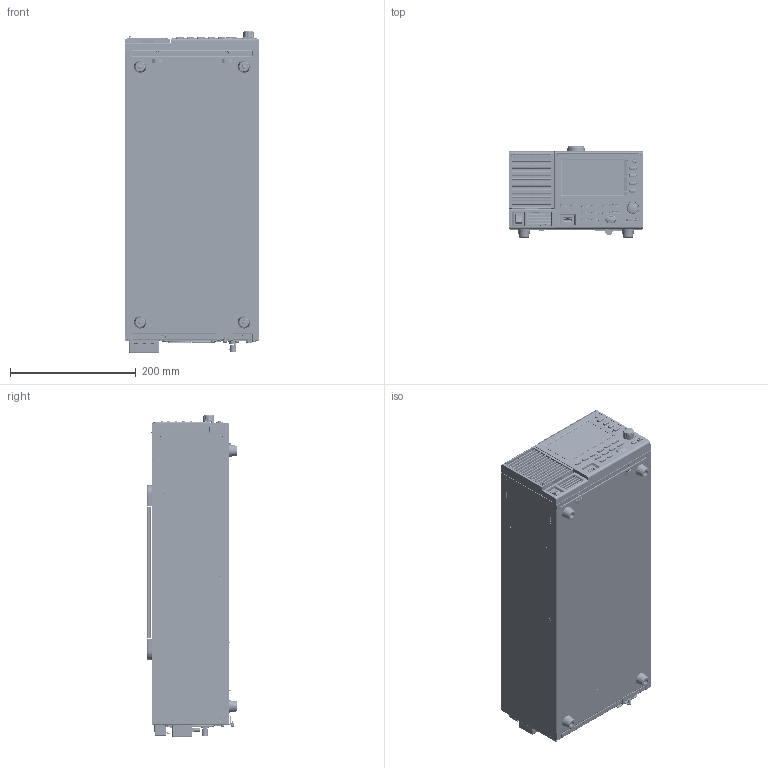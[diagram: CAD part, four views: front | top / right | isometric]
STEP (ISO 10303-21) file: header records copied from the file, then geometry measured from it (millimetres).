
FILE_DESCRIPTION((''),'2;1');
FILE_NAME('APS-4000_ASM','2020-07-02T17:37:15',('benny_chen'),(''),'CREO PARAMETRIC BY PTC INC, 2019080','CREO PARAMETRIC BY PTC INC, 2019080','');
FILE_SCHEMA(('CONFIG_CONTROL_DESIGN'));
Products named in the file (178): APS-4000_SKEL0001; ASR_SKEL0001; APS-4K_FRONT_ASM-B_SKEL; LCD-PH-07008-002; APS-4K-LCD-HOLD-B; 62SR-2K0HP101_ASM; 57RG-20B05601; 57RG-20B05501; APS-4K-LCD-B_ASM; APS-4K-PCB-KEY-1B; BL112_40RL; BL112_50S; CTT-1137; LED16X08S-SMD-SINGLECOLOR; APS-4K-ENCODE-SW-DC-12KV30D03F; APS-4K-PCB-KEY-1B_ASM; 63FP-AG1145A1; INSERT-CU; 63FP-AG1145A1_ASM; 63FP-AG114601; 63FP-AG114601_ASM; 57RB-40G14601_57RB-40G15101; APS-4K_MODEL_NP-B; PFR-100-SW-POWER; PMS-3X6; 51SR-21000201; 4702-06300301; 5005-180G020; APS-4K_F_ASM-B_ASM; APS-4000-HP-FP-B; BSO-M3-8; 62SR-2K0FP101_ASM; 62FG-120PP10; APS-4K-HP-HOLDER-USB-B; 62SR-2K0HP401_ASM; APS-4K-USB-UB-01745-B; FRP10; PMS-3X8; APS-4K-HP-HOLDER-USB-ASM-B_ASM; PMS-W-3X6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
Assembly tree (478 placements, depth 6):
  APS-4000_ASM
    APS-4000_SKEL0001
    ASR_SKEL0001
    APS-4K_FRONT_ASM-B_ASM
      APS-4K_FRONT_ASM-B_SKEL
      APS-4K_F_ASM-B_ASM
        APS-4K-LCD-B_ASM
          LCD-PH-07008-002
          62SR-2K0HP101_ASM
            APS-4K-LCD-HOLD-B
          57RG-20B05601  x2
          57RG-20B05501  x2
        APS-4K-PCB-KEY-1B_ASM
          APS-4K-PCB-KEY-1B
          BL112_40RL
          BL112_50S
          CTT-1137  x20
          LED16X08S-SMD-SINGLECOLOR  x4
          APS-4K-ENCODE-SW-DC-12KV30D03F
        63FP-AG1145A1_ASM
          63FP-AG1145A1
          INSERT-CU  x7
        63FP-AG114601_ASM
          63FP-AG114601
        57RB-40G14601_57RB-40G15101
        APS-4K_MODEL_NP-B
        PFR-100-SW-POWER
        PMS-3X6  x5
        51SR-21000201
        4702-06300301  x4
        5005-180G020
      APS-4K_FP_ASM-B_ASM
        62SR-2K0FP101_ASM
          APS-4000-HP-FP-B
          BSO-M3-8  x2
        62FG-120PP10  x2
        APS-4K-HP-HOLDER-USB-ASM-B_ASM
          62SR-2K0HP401_ASM
            APS-4K-HP-HOLDER-USB-B
          APS-4K-USB-UB-01745-B
          FRP10
          PMS-3X8  x2
        PMS-W-3X6  x2
      APS-4K-SPONGE-B_ASM
        57RG-20B06001
      PMS-W-3X6  x7
      594A-03012BS1  x3
      57IL-28F23801
      5320-00403021-SR-3AQ_ASM  x2
        SR-3AQ-Z
        SR-3AQ-A
    62SR-2K0LO101_ASM
      APS-4K-HP-LO
      SO-M3-5  x14
      S-M3-1_NUT  x4
    57IL-28F22701
    APS-4K-RP-ASM_ASM
      62SR-2K0RP201_ASM
        APS-4K-RP
        S-M3-1_NUT  x2
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Bounding box: 213 x 144.3 x 512.8 mm (x, y, z)
Volume: 1989012.3 mm3; surface area: 2958400 mm2
Topology: 490 solids, 494 shells, 27220 faces, 69387 edges, 44389 vertices
Faces by surface type: plane 17782, cylinder 6245, cone 1690, bspline 626, sphere 495, torus 293, extrusion 89
Entity records: 482175 total; most frequent: CARTESIAN_POINT 118540, ORIENTED_EDGE 75016, DIRECTION 74084, EDGE_CURVE 37516, VECTOR 26582, LINE 26569, VERTEX_POINT 23882, AXIS2_PLACEMENT_3D 23751
